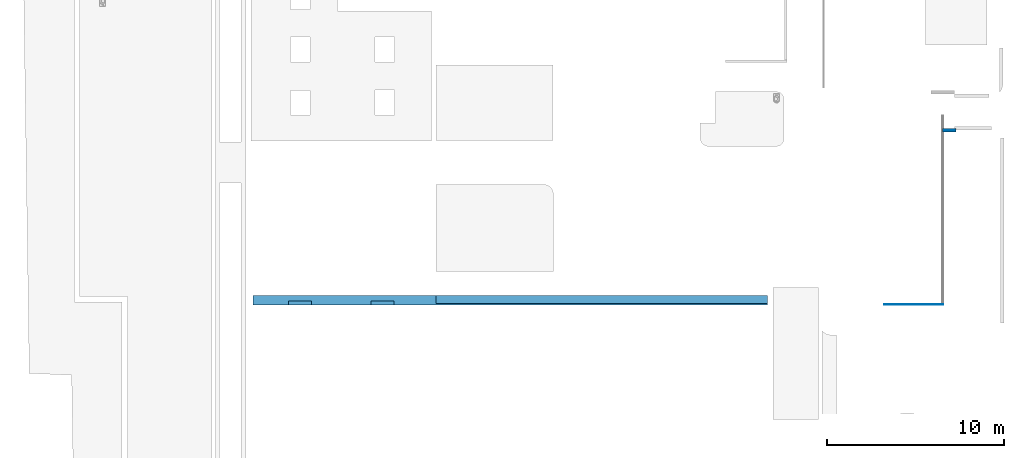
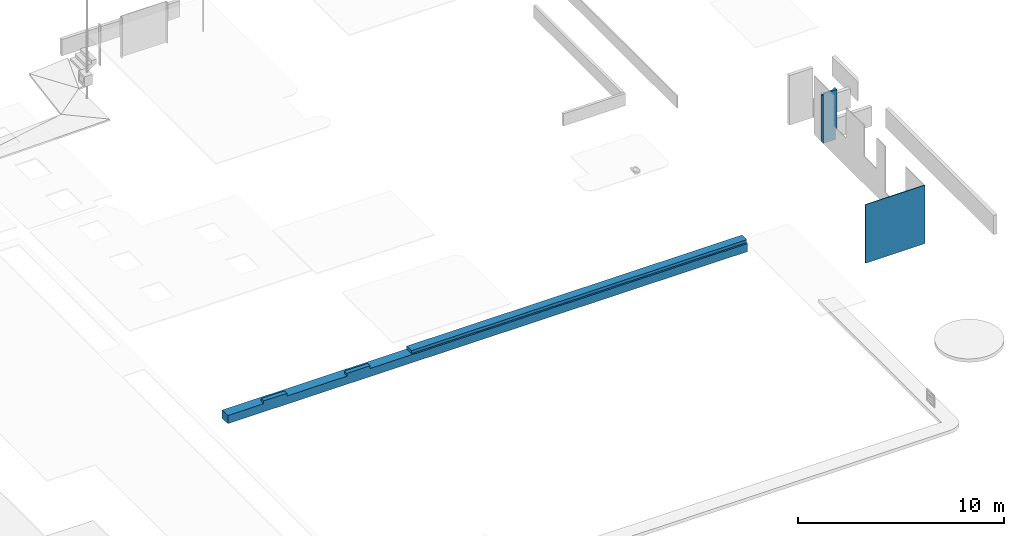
# One storey, part 3 of 6: 2 walls, 1 beam.
"""IFC2X3 building model written with IfcOpenShell, lengths in metres."""

from ifc_helpers import new_model, entity, si_unit, converted_unit, derived_unit, direction, frame, origin, place, context, subcontext, project, spatial, faceted_brep, material, material_list, layer, layer_set, type_object, element, save


model = new_model("IFC2X3")

# Units and contexts
model_context = context("Model", 3, precision=1e-05, world=origin(), true_north=direction((6.12303176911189e-17, 1.0)))
body_context = subcontext(model_context, "Body", "Model", "MODEL_VIEW")
ifc_project = project(units=[si_unit("LENGTHUNIT", "METRE"), si_unit("AREAUNIT", "SQUARE_METRE"), si_unit("VOLUMEUNIT", "CUBIC_METRE"), converted_unit("PLANEANGLEUNIT", "DEGREE", entity("IfcRatioMeasure", 0.0174532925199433), si_unit("PLANEANGLEUNIT", "RADIAN"), dimensions=[0, 0, 0, 0, 0, 0, 0]), si_unit("MASSUNIT", "GRAM", prefix="KILO"), derived_unit("MASSDENSITYUNIT", [(si_unit("MASSUNIT", "GRAM", prefix="KILO"), 1), (si_unit("LENGTHUNIT", "METRE"), -3)]), derived_unit("MOMENTOFINERTIAUNIT", [(si_unit("LENGTHUNIT", "METRE"), 4)]), si_unit("TIMEUNIT", "SECOND"), si_unit("FREQUENCYUNIT", "HERTZ"), si_unit("THERMODYNAMICTEMPERATUREUNIT", "DEGREE_CELSIUS"), derived_unit("THERMALTRANSMITTANCEUNIT", [(si_unit("MASSUNIT", "GRAM", prefix="KILO"), 1), (si_unit("THERMODYNAMICTEMPERATUREUNIT", "KELVIN"), -1), (si_unit("TIMEUNIT", "SECOND"), -3)]), derived_unit("VOLUMETRICFLOWRATEUNIT", [(si_unit("LENGTHUNIT", "METRE"), 3), (si_unit("TIMEUNIT", "SECOND"), -1)]), si_unit("ELECTRICCURRENTUNIT", "AMPERE"), si_unit("ELECTRICVOLTAGEUNIT", "VOLT"), si_unit("POWERUNIT", "WATT"), si_unit("FORCEUNIT", "NEWTON", prefix="KILO"), si_unit("ILLUMINANCEUNIT", "LUX"), si_unit("LUMINOUSFLUXUNIT", "LUMEN"), si_unit("LUMINOUSINTENSITYUNIT", "CANDELA"), derived_unit("USERDEFINED", [(si_unit("MASSUNIT", "GRAM", prefix="KILO"), -1), (si_unit("LENGTHUNIT", "METRE"), -2), (si_unit("TIMEUNIT", "SECOND"), 3), (si_unit("LUMINOUSFLUXUNIT", "LUMEN"), 1)]), derived_unit("LINEARVELOCITYUNIT", [(si_unit("LENGTHUNIT", "METRE"), 1), (si_unit("TIMEUNIT", "SECOND"), -1)]), si_unit("PRESSUREUNIT", "PASCAL"), derived_unit("USERDEFINED", [(si_unit("LENGTHUNIT", "METRE"), -2), (si_unit("MASSUNIT", "GRAM", prefix="KILO"), 1), (si_unit("TIMEUNIT", "SECOND"), -2)]), derived_unit("LINEARFORCEUNIT", [(si_unit("MASSUNIT", "GRAM", prefix="KILO"), 1), (si_unit("LENGTHUNIT", "METRE"), 1), (si_unit("TIMEUNIT", "SECOND"), -2), (si_unit("LENGTHUNIT", "METRE"), -1)]), derived_unit("PLANARFORCEUNIT", [(si_unit("MASSUNIT", "GRAM", prefix="KILO"), 1), (si_unit("LENGTHUNIT", "METRE"), 1), (si_unit("TIMEUNIT", "SECOND"), -2), (si_unit("LENGTHUNIT", "METRE"), -2)])], contexts=[model_context])

# Site, building, storey
site_placement = place(None, origin())
site = spatial("IfcSite", under=ifc_project, at=site_placement, Name="Default", CompositionType="ELEMENT")
building_placement = place(site_placement, origin())
building = spatial("IfcBuilding", under=site, at=building_placement, CompositionType="ELEMENT")
storey_placement = place(building_placement, origin())
storey = spatial("IfcBuildingStorey", under=building, at=storey_placement, Name="Niveau 00", CompositionType="ELEMENT", Elevation=0.0)

# Beam
ifc_material_1 = material(Name="Béton, coulé sur place gris")
beam_type = type_object("IfcBeamType", Name="M_Béton-Poutre rectangulaire T2:55x65h", PredefinedType="NOTDEFINED")
beam_placement = place(storey_placement, frame((-35.9189891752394, -21.0612530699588, 3.22187276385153)))
element("IfcBeam", 1, at=beam_placement, inside=storey, type_object=beam_type, material=ifc_material_1, Name="M_Béton-Poutre rectangulaire T2:55x65h", ObjectType="M_Béton-Poutre rectangulaire T2:55x65h", context=body_context, shape_type="Brep", body=[
    faceted_brep([(29.0879028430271, 0.0, 0.0), (29.0879028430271, 0.5500000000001, 0.0), (29.0879028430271, 0.5500000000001, 0.649999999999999), (29.0879028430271, 0.0950000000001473, 0.649999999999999), (29.0879028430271, 0.0950000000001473, 0.481435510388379), (29.0879028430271, 0.0, 0.481435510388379), (0.0, 0.5500000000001, 0.0), (0.0, 0.0, 0.0), (0.0, 0.0, 0.481435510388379), (0.0, 0.5500000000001, 0.481435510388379), (20.1213194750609, 0.5500000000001, 0.649999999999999), (19.9213194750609, 0.5500000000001, 0.649999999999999), (10.325000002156, 0.5500000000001, 0.649999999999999), (10.325000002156, 0.0950000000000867, 0.649999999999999), (19.9213194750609, 0.0, 0.0), (20.1213194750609, 0.0, 0.0), (20.1213194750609, 0.0, 0.481435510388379), (19.9213194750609, 0.0, 0.481435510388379), (7.95806450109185, 0.0, 0.481435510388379), (7.95806450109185, 0.0, 0.649999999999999), (6.65806450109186, 0.0, 0.649999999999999), (6.65806450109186, 0.0, 0.481435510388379), (3.29994294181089, 0.0, 0.48143551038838), (3.29994294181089, 0.0, 0.649999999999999), (1.99994294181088, 0.0, 0.649999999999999), (1.99994294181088, 0.0, 0.481435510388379), (19.9213194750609, 0.5500000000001, 0.0), (20.1213194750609, 0.5500000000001, 0.0), (10.325000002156, 0.5500000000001, 0.481435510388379), (1.99994294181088, 0.233430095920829, 0.481435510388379), (3.29994294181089, 0.233430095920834, 0.481435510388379), (6.65806450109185, 0.233430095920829, 0.481435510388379), (7.95806450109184, 0.233430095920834, 0.481435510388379), (10.325000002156, 0.0950000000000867, 0.481435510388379), (3.29994294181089, 0.233430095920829, 0.649999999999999), (1.99994294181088, 0.233430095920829, 0.649999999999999), (6.65806450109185, 0.233430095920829, 0.649999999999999), (7.95806450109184, 0.233430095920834, 0.649999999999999)], [[[0, 1, 2, 3, 4, 5]], [[6, 7, 8, 9]], [[3, 2, 10, 11, 12, 13]], [[7, 14, 15, 0, 5, 16, 17, 18, 19, 20, 21, 22, 23, 24, 25, 8]], [[1, 0, 15, 14, 7, 6, 26, 27]], [[2, 1, 27, 26, 6, 9, 28, 12, 11, 10]], [[29, 30, 22, 21, 31, 32, 18, 17, 16, 5, 4, 33, 28, 9, 8, 25]], [[28, 33, 13, 12]], [[33, 4, 3, 13]], [[22, 30, 34, 23]], [[30, 29, 35, 34]], [[29, 25, 24, 35]], [[32, 31, 36, 37]], [[31, 21, 20, 36]], [[18, 32, 37, 19]], [[20, 19, 37, 36]], [[24, 23, 34, 35]]]),
])

# Walls
ifc_material_2 = material(Name="@_Enduit Pierre")
ifc_material_3 = material(Name="Maçonnerie - Isolant")
ifc_material_4 = material(Name="Maçonnerie - Voile BA")
ifc_material_list = material_list([ifc_material_2, ifc_material_3, ifc_material_4])
ifc_layer_1 = layer(ifc_material_2, 0.01)
ifc_layer_2 = layer(ifc_material_3, 0.09)
ifc_layer_3 = layer(ifc_material_4, 0.1)
ifc_layer_set_1 = layer_set([ifc_layer_1, ifc_layer_2, ifc_layer_3], Name="Mur de base:Mur 100- isolation 100 - enduit")
wall_type_1 = type_object("IfcWallType", Name="Mur de base:Mur 100- isolation 100 - enduit", PredefinedType="STANDARD", material=ifc_layer_set_1)
wall_1_placement = place(storey_placement, frame((3.83474713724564, -11.1594963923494, 0.213308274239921), z_axis=(0.0, 0.0, 1.0), x_axis=(-1.0, 0.0, 0.0)))
element("IfcWall", 2, at=wall_1_placement, inside=storey, type_object=wall_type_1, material=ifc_material_list, Name="Mur de base:Mur 100- isolation 100 - enduit", ObjectType="Mur de base:Mur 100- isolation 100 - enduit", context=body_context, shape_type="Brep", body=[
    faceted_brep([(0.0999999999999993, -0.0999999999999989, 0.0), (0.737278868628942, -0.0999999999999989, 0.0), (0.777278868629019, -0.0999999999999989, 0.0), (0.777278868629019, -0.0999999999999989, 2.77999999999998), (0.2, -0.0999999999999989, 2.77999999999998), (0.0999999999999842, -0.0999999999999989, 2.77999999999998), (0.0999999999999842, -0.0999999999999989, 2.92999999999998), (0.0, -0.0999999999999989, 2.92999999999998), (0.0, -0.0999999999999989, 0.679999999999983), (0.0, -0.0999999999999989, 0.634775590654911), (0.100000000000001, -0.0999999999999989, 0.634775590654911), (0.777278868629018, 0.100000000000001, 0.0), (0.737278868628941, 0.100000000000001, 0.0), (0.1, 0.100000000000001, 0.0), (0.1, 0.100000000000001, 0.634775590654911), (0.0, 0.100000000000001, 0.634775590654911), (0.0, 0.100000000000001, 2.92999999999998), (0.737278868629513, 0.100000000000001, 2.92999999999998), (0.737278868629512, 0.100000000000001, 2.88477559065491), (0.777278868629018, 0.100000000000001, 2.88477559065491), (0.100000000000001, 0.0, 0.0), (0.77727886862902, 0.0, 2.77999999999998), (0.0999999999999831, 0.0, 2.77999999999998), (0.0999999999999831, 0.0, 2.92999999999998), (0.77727886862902, 0.0, 2.88477559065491), (0.737278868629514, 0.0, 2.88477559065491), (0.737278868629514, 0.0, 2.92999999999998)], [[[0, 1, 2, 3, 4, 5, 6, 7, 8, 9, 10]], [[11, 12, 13, 14, 15, 16, 17, 18, 19]], [[2, 1, 0, 20, 13, 12, 11]], [[13, 20, 0, 10, 14]], [[15, 14, 10, 9]], [[15, 9, 8, 7, 16]], [[21, 22, 5, 4, 3]], [[22, 23, 6, 5]], [[23, 22, 21, 24, 25, 26]], [[19, 18, 25, 24]], [[18, 17, 26, 25]], [[17, 16, 7, 6, 23, 26]], [[2, 11, 19, 24, 21, 3]]]),
])
ifc_material_5 = material(Name="Finition vertical béton")
ifc_layer_4 = layer(ifc_material_5, 0.04)
ifc_layer_set_2 = layer_set([ifc_layer_4], Name="Mur de base:Mur EXE 40- Hach")
wall_type_2 = type_object("IfcWallType", Name="Mur de base:Mur EXE 40- Hach", PredefinedType="STANDARD", material=ifc_layer_set_2)
wall_2_placement = place(storey_placement, frame((3.09746826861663, -21.026253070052, 0.21), z_axis=(0.0, 0.0, 1.0), x_axis=(-1.0, 0.0, 0.0)))
element("IfcWall", 3, at=wall_2_placement, inside=storey, type_object=wall_type_2, Name="Mur de base:Mur EXE 40- Hach", ObjectType="Mur de base:Mur EXE 40- Hach", context=body_context, shape_type="Brep", body=[
    faceted_brep([(0.0, -0.0199999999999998, 0.0), (3.32404799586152, -0.0199999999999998, 0.0), (3.32404799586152, -0.0199999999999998, 3.46308386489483), (0.0, -0.0199999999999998, 3.46308386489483), (0.0, -0.0199999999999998, 1.07750931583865), (0.00999999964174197, -0.0199999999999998, 1.07755059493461), (0.00999999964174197, -0.0199999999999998, 0.877550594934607), (0.0, -0.0199999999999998, 0.877509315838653), (3.32404799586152, 0.0199999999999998, 0.0), (0.0, 0.0199999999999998, 0.0), (0.0, 0.0199999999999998, 0.881746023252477), (0.00999999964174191, 0.0199999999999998, 0.883308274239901), (0.00999999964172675, 0.0199999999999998, 1.0833082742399), (0.0, 0.0199999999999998, 1.08174602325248), (0.0, 0.0199999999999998, 3.46308386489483), (3.32404799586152, 0.0199999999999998, 3.46308386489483), (0.0, 0.0117540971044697, 1.08208006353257), (0.0, 0.0117540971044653, 0.882080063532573)], [[[0, 1, 2, 3, 4, 5, 6, 7]], [[8, 9, 10, 11, 12, 13, 14, 15]], [[1, 0, 9, 8]], [[2, 1, 8, 15]], [[3, 2, 15, 14]], [[3, 14, 13, 16, 4]], [[5, 12, 11, 6]], [[16, 12, 5, 4]], [[12, 16, 13]], [[6, 11, 17, 7]], [[17, 11, 10]], [[9, 0, 7, 17, 10]]]),
])

save(model, "model.ifc")
